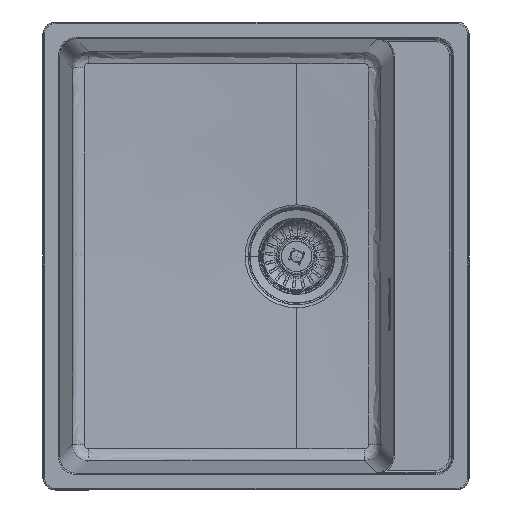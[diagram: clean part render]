
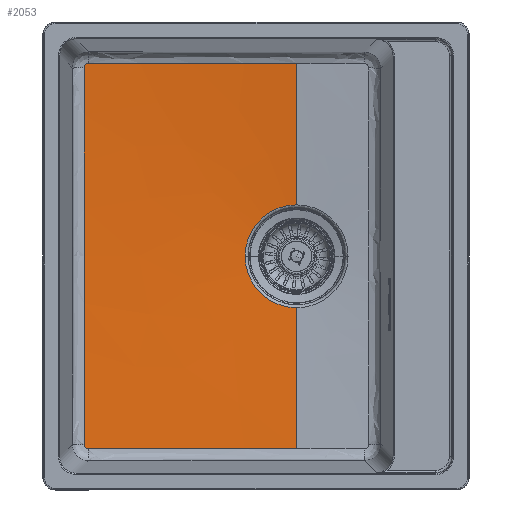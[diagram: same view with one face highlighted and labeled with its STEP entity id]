
A CAD part, top view. The second image highlights one B-rep face of the part: STEP entity #2053.
In plain terms, the highlighted free-form (B-spline) face has degree [1, 2] with [2, 5] control points.
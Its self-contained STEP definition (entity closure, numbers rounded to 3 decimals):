
#2053=ADVANCED_FACE('',(#3643),#26915,.T.);
#3643=FACE_OUTER_BOUND('',#5338,.T.);
#5338=EDGE_LOOP('',(#13760,#13761,#13762,#13763,#13764,#13765,#13766,#13767,
#13768));
#13760=ORIENTED_EDGE('',*,*,#18097,.T.);
#13761=ORIENTED_EDGE('',*,*,#18021,.F.);
#13762=ORIENTED_EDGE('',*,*,#18023,.F.);
#13763=ORIENTED_EDGE('',*,*,#18027,.F.);
#13764=ORIENTED_EDGE('',*,*,#18003,.F.);
#13765=ORIENTED_EDGE('',*,*,#18008,.F.);
#13766=ORIENTED_EDGE('',*,*,#18031,.F.);
#13767=ORIENTED_EDGE('',*,*,#18029,.F.);
#13768=ORIENTED_EDGE('',*,*,#18099,.F.);
#18003=EDGE_CURVE('',#26473,#26474,#20822,.T.);
#18008=EDGE_CURVE('',#26485,#26473,#20826,.T.);
#18021=EDGE_CURVE('',#26480,#26515,#20835,.T.);
#18023=EDGE_CURVE('',#26481,#26480,#20836,.T.);
#18027=EDGE_CURVE('',#26474,#26481,#20839,.T.);
#18029=EDGE_CURVE('',#26484,#26482,#22254,.T.);
#18031=EDGE_CURVE('',#26482,#26485,#20840,.T.);
#18097=EDGE_CURVE('',#26514,#26515,#20857,.T.);
#18099=EDGE_CURVE('',#26514,#26484,#22300,.T.);
#20822=B_SPLINE_CURVE_WITH_KNOTS('',3,(#74823,#74824,#74825,#74826,#74827,
#74828,#74829,#74830),.UNSPECIFIED.,.F.,.F.,(4,1,1,1,1,4),(0.,2.275,
4.549,5.686,6.824,7.961),
 .UNSPECIFIED.);
#20826=B_SPLINE_CURVE_WITH_KNOTS('',3,(#74854,#74855,#74856,#74857,#74858,
#74859),.UNSPECIFIED.,.F.,.F.,(4,1,1,4),(81.239,118.08,
141.695,330.623),.UNSPECIFIED.);
#20835=B_SPLINE_CURVE_WITH_KNOTS('',3,(#74933,#74934,#74935,#74936,#74937,
#74938,#74939),.UNSPECIFIED.,.F.,.F.,(4,1,1,1,4),(0.,141.695,165.31,
236.158,249.383),.UNSPECIFIED.);
#20836=B_SPLINE_CURVE_WITH_KNOTS('',3,(#74943,#74944,#74945,#74946,#74947,
#74948,#74949,#74950),.UNSPECIFIED.,.F.,.F.,(4,1,1,1,1,4),(0.,1.137,
2.275,3.412,5.686,7.961),
 .UNSPECIFIED.);
#20839=B_SPLINE_CURVE_WITH_KNOTS('',3,(#74969,#74970,#74971,#74972,#74973,
#74974,#74975),.UNSPECIFIED.,.F.,.F.,(4,1,1,1,4),(0.,193.416,257.888,
322.359,451.303),.UNSPECIFIED.);
#20840=B_SPLINE_CURVE_WITH_KNOTS('',1,(#74985,#74986),.UNSPECIFIED.,.F.,
 .F.,(2,2),(61.677,230.645),.UNSPECIFIED.);
#20857=B_SPLINE_CURVE_WITH_KNOTS('',1,(#75178,#75179),.UNSPECIFIED.,.F.,
 .F.,(2,2),(61.677,230.644),.UNSPECIFIED.);
#22254=TRIMMED_CURVE($,#23706,(#74980),(#74981),.T.,.CARTESIAN.);
#22300=TRIMMED_CURVE($,#23752,(#75185),(#75186),.T.,.CARTESIAN.);
#23706=CIRCLE('',#31574,61.592);
#23752=CIRCLE('',#31620,61.592);
#26473=VERTEX_POINT('',#73091);
#26474=VERTEX_POINT('',#73092);
#26480=VERTEX_POINT('',#73098);
#26481=VERTEX_POINT('',#73099);
#26482=VERTEX_POINT('',#73100);
#26484=VERTEX_POINT('',#73102);
#26485=VERTEX_POINT('',#73103);
#26514=VERTEX_POINT('',#73132);
#26515=VERTEX_POINT('',#73133);
#26915=(
BOUNDED_SURFACE()
B_SPLINE_SURFACE(1,2,((#72495,#72496,#72497,#72498,#72499),(#72500,#72501,
#72502,#72503,#72504)),.UNSPECIFIED.,.F.,.F.,.F.)
B_SPLINE_SURFACE_WITH_KNOTS((2,2),(3,2,3),(0.,378.203),(1186.532,
1779.799,2373.065),.UNSPECIFIED.)
GEOMETRIC_REPRESENTATION_ITEM()
RATIONAL_B_SPLINE_SURFACE(((1.,0.707,1.,0.707,1.),
(1.,0.707,1.,0.707,1.)))
REPRESENTATION_ITEM('')
SURFACE()
);
#31574=AXIS2_PLACEMENT_3D($,#74979,#35526,#35527);
#31620=AXIS2_PLACEMENT_3D($,#75184,#35618,#35619);
#35526=DIRECTION('',(0.,0.,1.));
#35527=DIRECTION('',(-1.,0.,0.));
#35618=DIRECTION('',(0.,0.,1.));
#35619=DIRECTION('',(0.,1.,0.));
#72495=CARTESIAN_POINT('',(48.6,0.,-203.066));
#72496=CARTESIAN_POINT('',(48.6,0.,-203.066));
#72497=CARTESIAN_POINT('',(48.6,0.,-203.066));
#72498=CARTESIAN_POINT('',(48.6,0.,-203.066));
#72499=CARTESIAN_POINT('',(48.6,0.,-203.066));
#72500=CARTESIAN_POINT('',(48.6,377.685,-183.272));
#72501=CARTESIAN_POINT('',(-329.085,377.685,-183.272));
#72502=CARTESIAN_POINT('',(-329.085,0.,-183.272));
#72503=CARTESIAN_POINT('',(-329.085,-377.685,-183.272));
#72504=CARTESIAN_POINT('',(48.6,-377.685,-183.272));
#73091=CARTESIAN_POINT('',(-200.639,-230.577,-185.271));
#73092=CARTESIAN_POINT('',(-205.633,-225.586,-185.253));
#73098=CARTESIAN_POINT('',(-200.639,230.577,-185.271));
#73099=CARTESIAN_POINT('',(-205.633,225.586,-185.253));
#73100=CARTESIAN_POINT('',(48.6,-61.592,-199.838));
#73102=CARTESIAN_POINT('',(-12.992,0.,-199.838));
#73103=CARTESIAN_POINT('',(48.6,-230.328,-190.995));
#73132=CARTESIAN_POINT('',(48.6,61.592,-199.838));
#73133=CARTESIAN_POINT('',(48.6,230.328,-190.995));
#74823=CARTESIAN_POINT('',(-200.639,-230.577,-185.271));
#74824=CARTESIAN_POINT('',(-201.386,-230.579,-185.243));
#74825=CARTESIAN_POINT('',(-202.882,-230.245,-185.197));
#74826=CARTESIAN_POINT('',(-204.384,-229.051,-185.181));
#74827=CARTESIAN_POINT('',(-205.182,-227.773,-185.194));
#74828=CARTESIAN_POINT('',(-205.552,-226.707,-185.217));
#74829=CARTESIAN_POINT('',(-205.634,-225.959,-185.24));
#74830=CARTESIAN_POINT('',(-205.633,-225.586,-185.253));
#74854=CARTESIAN_POINT('',(48.6,-230.328,-190.995));
#74855=CARTESIAN_POINT('',(36.31,-230.329,-190.995));
#74856=CARTESIAN_POINT('',(16.141,-230.331,-190.911));
#74857=CARTESIAN_POINT('',(-67.043,-230.349,-189.994));
#74858=CARTESIAN_POINT('',(-137.805,-230.438,-187.694));
#74859=CARTESIAN_POINT('',(-200.639,-230.577,-185.271));
#74933=CARTESIAN_POINT('',(-200.639,230.577,-185.271));
#74934=CARTESIAN_POINT('',(-153.514,230.472,-187.088));
#74935=CARTESIAN_POINT('',(-98.494,230.388,-188.953));
#74936=CARTESIAN_POINT('',(-19.781,230.338,-190.551));
#74937=CARTESIAN_POINT('',(16.14,230.33,-190.955));
#74938=CARTESIAN_POINT('',(44.188,230.328,-190.995));
#74939=CARTESIAN_POINT('',(48.6,230.328,-190.995));
#74943=CARTESIAN_POINT('',(-205.633,225.586,-185.253));
#74944=CARTESIAN_POINT('',(-205.634,225.959,-185.24));
#74945=CARTESIAN_POINT('',(-205.552,226.707,-185.217));
#74946=CARTESIAN_POINT('',(-205.182,227.773,-185.194));
#74947=CARTESIAN_POINT('',(-204.384,229.05,-185.181));
#74948=CARTESIAN_POINT('',(-202.882,230.244,-185.197));
#74949=CARTESIAN_POINT('',(-201.386,230.579,-185.243));
#74950=CARTESIAN_POINT('',(-200.639,230.577,-185.271));
#74969=CARTESIAN_POINT('',(-205.633,-225.586,-185.253));
#74970=CARTESIAN_POINT('',(-205.51,-161.222,-187.497));
#74971=CARTESIAN_POINT('',(-205.433,-75.291,-189.793));
#74972=CARTESIAN_POINT('',(-205.437,32.266,-189.787));
#74973=CARTESIAN_POINT('',(-205.469,118.263,-188.65));
#74974=CARTESIAN_POINT('',(-205.551,182.676,-186.749));
#74975=CARTESIAN_POINT('',(-205.633,225.586,-185.253));
#74979=CARTESIAN_POINT('',(48.6,0.,-199.838));
#74980=CARTESIAN_POINT('',(-12.992,0.,-199.838));
#74981=CARTESIAN_POINT('',(48.6,-61.592,-199.838));
#74985=CARTESIAN_POINT('',(48.6,-61.592,-199.838));
#74986=CARTESIAN_POINT('',(48.6,-230.328,-190.995));
#75178=CARTESIAN_POINT('',(48.6,61.592,-199.838));
#75179=CARTESIAN_POINT('',(48.6,230.328,-190.995));
#75184=CARTESIAN_POINT('',(48.6,0.,-199.838));
#75185=CARTESIAN_POINT('',(48.6,61.592,-199.838));
#75186=CARTESIAN_POINT('',(-12.992,0.,-199.838));
